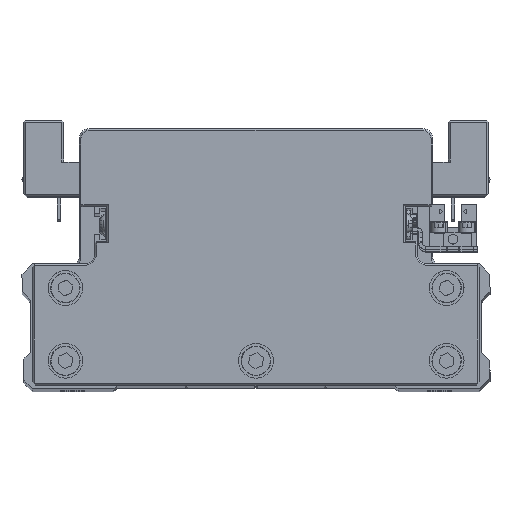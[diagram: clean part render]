
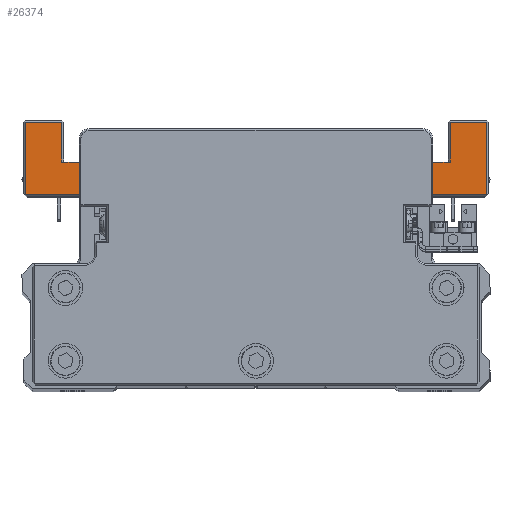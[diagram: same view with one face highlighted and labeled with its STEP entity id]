
A CAD part, top view. The second image highlights one B-rep face of the part: STEP entity #26374.
In plain terms, the highlighted planar face has unit normal (0, 0, 1) as drawn and (0, -1, 0) by its records, which use the part's own axes.
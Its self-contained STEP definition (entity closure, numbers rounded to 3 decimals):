
#70 = LINE ( 'NONE', #12231, #23984 ) ;
#129 = VERTEX_POINT ( 'NONE', #31996 ) ;
#529 = CARTESIAN_POINT ( 'NONE',  ( 55.5, -45., -52.5 ) ) ;
#1157 = LINE ( 'NONE', #13312, #19780 ) ;
#1316 = VECTOR ( 'NONE', #30622, 1000. ) ;
#1762 = DIRECTION ( 'NONE',  ( 1., 0., 0. ) ) ;
#1834 = CARTESIAN_POINT ( 'NONE',  ( -66.5, -45., -64. ) ) ;
#2331 = VERTEX_POINT ( 'NONE', #37126 ) ;
#2356 = EDGE_CURVE ( 'NONE', #2833, #21640, #3929, .T. ) ;
#2833 = VERTEX_POINT ( 'NONE', #34694 ) ;
#2849 = CARTESIAN_POINT ( 'NONE',  ( 46., -45., -54. ) ) ;
#3077 = LINE ( 'NONE', #15227, #35135 ) ;
#3285 = VECTOR ( 'NONE', #14996, 1000. ) ;
#3491 = EDGE_CURVE ( 'NONE', #6118, #30956, #27802, .T. ) ;
#3551 = DIRECTION ( 'NONE',  ( 0., 0., -1. ) ) ;
#3929 = LINE ( 'NONE', #16085, #12776 ) ;
#4612 = VECTOR ( 'NONE', #32501, 1000. ) ;
#4665 = EDGE_CURVE ( 'NONE', #21640, #18461, #35437, .T. ) ;
#4912 = CARTESIAN_POINT ( 'NONE',  ( -77.786, -45., -42.5 ) ) ;
#5703 = ORIENTED_EDGE ( 'NONE', *, *, #28196, .T. ) ;
#5808 = EDGE_CURVE ( 'NONE', #24412, #129, #16929, .T. ) ;
#6118 = VERTEX_POINT ( 'NONE', #6743 ) ;
#6204 = VECTOR ( 'NONE', #1762, 1000. ) ;
#6313 = VERTEX_POINT ( 'NONE', #7929 ) ;
#6350 = CARTESIAN_POINT ( 'NONE',  ( 56., -45., -64.5 ) ) ;
#6384 = LINE ( 'NONE', #18520, #1316 ) ;
#6743 = CARTESIAN_POINT ( 'NONE',  ( 56., -45., -52.5 ) ) ;
#6969 = CARTESIAN_POINT ( 'NONE',  ( 0., -45., 0. ) ) ;
#7430 = CARTESIAN_POINT ( 'NONE',  ( -39.868, -45., -42.987 ) ) ;
#7465 = ORIENTED_EDGE ( 'NONE', *, *, #37956, .T. ) ;
#7502 = CARTESIAN_POINT ( 'NONE',  ( -66., -45., -43. ) ) ;
#7709 = LINE ( 'NONE', #19839, #21720 ) ;
#7929 = CARTESIAN_POINT ( 'NONE',  ( -66.5, -45., -43. ) ) ;
#8248 = LINE ( 'NONE', #20389, #4612 ) ;
#8278 = VERTEX_POINT ( 'NONE', #36623 ) ;
#8331 = VERTEX_POINT ( 'NONE', #24911 ) ;
#8534 = CARTESIAN_POINT ( 'NONE',  ( 56., -45., -64. ) ) ;
#9551 = ORIENTED_EDGE ( 'NONE', *, *, #26429, .T. ) ;
#9657 = LINE ( 'NONE', #21800, #16109 ) ;
#10000 = EDGE_CURVE ( 'NONE', #29388, #30082, #8248, .T. ) ;
#10813 = ORIENTED_EDGE ( 'NONE', *, *, #14711, .T. ) ;
#11057 = ORIENTED_EDGE ( 'NONE', *, *, #15959, .F. ) ;
#11568 = CARTESIAN_POINT ( 'NONE',  ( 46., -45., -52.5 ) ) ;
#11875 = ORIENTED_EDGE ( 'NONE', *, *, #33559, .T. ) ;
#11881 = CARTESIAN_POINT ( 'NONE',  ( -66.5, -45., -64.5 ) ) ;
#11941 = ORIENTED_EDGE ( 'NONE', *, *, #19671, .T. ) ;
#12026 = LINE ( 'NONE', #24156, #37876 ) ;
#12231 = CARTESIAN_POINT ( 'NONE',  ( -55.5, -45., -52.5 ) ) ;
#12696 = DIRECTION ( 'NONE',  ( -1., 0., 0. ) ) ;
#12776 = VECTOR ( 'NONE', #28189, 1000. ) ;
#12970 = ORIENTED_EDGE ( 'NONE', *, *, #34426, .T. ) ;
#13312 = CARTESIAN_POINT ( 'NONE',  ( 67., -45., -64. ) ) ;
#14469 = CARTESIAN_POINT ( 'NONE',  ( -40.066, -45., -41.5 ) ) ;
#14711 = EDGE_CURVE ( 'NONE', #20472, #8331, #12026, .T. ) ;
#14996 = DIRECTION ( 'NONE',  ( 1., 0., 0. ) ) ;
#15227 = CARTESIAN_POINT ( 'NONE',  ( 66.5, -45., -43.5 ) ) ;
#15488 = EDGE_CURVE ( 'NONE', #6313, #24412, #39106, .T. ) ;
#15690 = VECTOR ( 'NONE', #12696, 1000. ) ;
#15959 = EDGE_CURVE ( 'NONE', #8278, #18265, #70, .T. ) ;
#16085 = CARTESIAN_POINT ( 'NONE',  ( -39.868, -45., -42.987 ) ) ;
#16109 = VECTOR ( 'NONE', #33897, 1000. ) ;
#16205 = ORIENTED_EDGE ( 'NONE', *, *, #4665, .T. ) ;
#16929 = LINE ( 'NONE', #29026, #6204 ) ;
#17066 = DIRECTION ( 'NONE',  ( -1., 0., 0. ) ) ;
#17119 = ORIENTED_EDGE ( 'NONE', *, *, #2356, .T. ) ;
#17124 = VECTOR ( 'NONE', #17066, 1000. ) ;
#17712 = ORIENTED_EDGE ( 'NONE', *, *, #33435, .T. ) ;
#18265 = VERTEX_POINT ( 'NONE', #32131 ) ;
#18318 = AXIS2_PLACEMENT_3D ( 'NONE', #14469, #26585, #38704 ) ;
#18461 = VERTEX_POINT ( 'NONE', #30714 ) ;
#18492 = DIRECTION ( 'NONE',  ( 0., 0., -1. ) ) ;
#18520 = CARTESIAN_POINT ( 'NONE',  ( -46., -45., -52.5 ) ) ;
#18611 = AXIS2_PLACEMENT_3D ( 'NONE', #18689, #30795, #3551 ) ;
#18689 = CARTESIAN_POINT ( 'NONE',  ( 40.066, -45., -41.5 ) ) ;
#18872 = VECTOR ( 'NONE', #24008, 1000. ) ;
#19107 = DIRECTION ( 'NONE',  ( 0., -1., 0. ) ) ;
#19638 = DIRECTION ( 'NONE',  ( -1., 0., 0. ) ) ;
#19671 = EDGE_CURVE ( 'NONE', #30082, #2833, #32153, .T. ) ;
#19780 = VECTOR ( 'NONE', #25449, 1000. ) ;
#19839 = CARTESIAN_POINT ( 'NONE',  ( 46., -45., -52.5 ) ) ;
#20389 = CARTESIAN_POINT ( 'NONE',  ( 25.802, -45., -41.111 ) ) ;
#20472 = VERTEX_POINT ( 'NONE', #37226 ) ;
#21640 = VERTEX_POINT ( 'NONE', #7430 ) ;
#21720 = VECTOR ( 'NONE', #31950, 1000. ) ;
#21800 = CARTESIAN_POINT ( 'NONE',  ( -56., -45., -52.5 ) ) ;
#22087 = FACE_OUTER_BOUND ( 'NONE', #29446, .T. ) ;
#22241 = VECTOR ( 'NONE', #18492, 1000. ) ;
#23643 = VERTEX_POINT ( 'NONE', #8534 ) ;
#23984 = VECTOR ( 'NONE', #24350, 1000. ) ;
#24008 = DIRECTION ( 'NONE',  ( 0., 0., -1. ) ) ;
#24156 = CARTESIAN_POINT ( 'NONE',  ( 40.066, -45., -43. ) ) ;
#24350 = DIRECTION ( 'NONE',  ( -1., 0., 0. ) ) ;
#24412 = VERTEX_POINT ( 'NONE', #1834 ) ;
#24552 = ORIENTED_EDGE ( 'NONE', *, *, #26305, .F. ) ;
#24664 = VECTOR ( 'NONE', #19638, 1000. ) ;
#24911 = CARTESIAN_POINT ( 'NONE',  ( 40.066, -45., -43. ) ) ;
#24994 = ORIENTED_EDGE ( 'NONE', *, *, #10000, .T. ) ;
#25174 = EDGE_CURVE ( 'NONE', #30956, #36133, #7709, .T. ) ;
#25449 = DIRECTION ( 'NONE',  ( 1., 0., 0. ) ) ;
#26051 = CARTESIAN_POINT ( 'NONE',  ( -46., -45., -54. ) ) ;
#26115 = CARTESIAN_POINT ( 'NONE',  ( 39.868, -45., -42.987 ) ) ;
#26151 = ORIENTED_EDGE ( 'NONE', *, *, #5808, .T. ) ;
#26305 = EDGE_CURVE ( 'NONE', #27975, #8278, #6384, .T. ) ;
#26374 = ADVANCED_FACE ( 'NONE', ( #22087 ), #34198, .T. ) ;
#26429 = EDGE_CURVE ( 'NONE', #23643, #2331, #1157, .T. ) ;
#26585 = DIRECTION ( 'NONE',  ( 0., 1., 0. ) ) ;
#26748 = AXIS2_PLACEMENT_3D ( 'NONE', #6969, #19107, #31222 ) ;
#27355 = DIRECTION ( 'NONE',  ( 0., 0., 1. ) ) ;
#27395 = ORIENTED_EDGE ( 'NONE', *, *, #15488, .T. ) ;
#27802 = LINE ( 'NONE', #529, #15690 ) ;
#27870 = ORIENTED_EDGE ( 'NONE', *, *, #3491, .F. ) ;
#27975 = VERTEX_POINT ( 'NONE', #26051 ) ;
#28189 = DIRECTION ( 'NONE',  ( -0.991, 0., -0.132 ) ) ;
#28196 = EDGE_CURVE ( 'NONE', #6118, #23643, #33574, .T. ) ;
#29026 = CARTESIAN_POINT ( 'NONE',  ( -55.5, -45., -64. ) ) ;
#29388 = VERTEX_POINT ( 'NONE', #26115 ) ;
#29446 = EDGE_LOOP ( 'NONE', ( #11941, #17119, #16205, #12970, #27395, #26151, #11875, #11057, #24552, #7465, #35220, #27870, #5703, #9551, #17712, #10813, #37779, #24994 ) ) ;
#30082 = VERTEX_POINT ( 'NONE', #32127 ) ;
#30099 = LINE ( 'NONE', #2849, #3285 ) ;
#30622 = DIRECTION ( 'NONE',  ( 0., 0., 1. ) ) ;
#30714 = CARTESIAN_POINT ( 'NONE',  ( -40.066, -45., -43. ) ) ;
#30795 = DIRECTION ( 'NONE',  ( 0., 1., 0. ) ) ;
#30956 = VERTEX_POINT ( 'NONE', #11568 ) ;
#31222 = DIRECTION ( 'NONE',  ( 0., 0., -1. ) ) ;
#31279 = EDGE_CURVE ( 'NONE', #8331, #29388, #35736, .T. ) ;
#31950 = DIRECTION ( 'NONE',  ( 0., 0., -1. ) ) ;
#31996 = CARTESIAN_POINT ( 'NONE',  ( -56., -45., -64. ) ) ;
#32127 = CARTESIAN_POINT ( 'NONE',  ( 36.217, -45., -42.5 ) ) ;
#32131 = CARTESIAN_POINT ( 'NONE',  ( -56., -45., -52.5 ) ) ;
#32153 = LINE ( 'NONE', #4912, #17124 ) ;
#32501 = DIRECTION ( 'NONE',  ( -0.991, 0., 0.132 ) ) ;
#32540 = CARTESIAN_POINT ( 'NONE',  ( 46., -45., -54. ) ) ;
#33435 = EDGE_CURVE ( 'NONE', #2331, #20472, #3077, .T. ) ;
#33559 = EDGE_CURVE ( 'NONE', #129, #18265, #9657, .T. ) ;
#33574 = LINE ( 'NONE', #6350, #22241 ) ;
#33897 = DIRECTION ( 'NONE',  ( 0., 0., 1. ) ) ;
#34198 = PLANE ( 'NONE',  #26748 ) ;
#34426 = EDGE_CURVE ( 'NONE', #18461, #6313, #34729, .T. ) ;
#34694 = CARTESIAN_POINT ( 'NONE',  ( -36.217, -45., -42.5 ) ) ;
#34729 = LINE ( 'NONE', #7502, #24664 ) ;
#35135 = VECTOR ( 'NONE', #27355, 1000. ) ;
#35220 = ORIENTED_EDGE ( 'NONE', *, *, #25174, .F. ) ;
#35437 = CIRCLE ( 'NONE', #18318, 1.5 ) ;
#35736 = CIRCLE ( 'NONE', #18611, 1.5 ) ;
#36133 = VERTEX_POINT ( 'NONE', #32540 ) ;
#36272 = DIRECTION ( 'NONE',  ( -1., 0., 0. ) ) ;
#36623 = CARTESIAN_POINT ( 'NONE',  ( -46., -45., -52.5 ) ) ;
#37126 = CARTESIAN_POINT ( 'NONE',  ( 66.5, -45., -64. ) ) ;
#37226 = CARTESIAN_POINT ( 'NONE',  ( 66.5, -45., -43. ) ) ;
#37779 = ORIENTED_EDGE ( 'NONE', *, *, #31279, .T. ) ;
#37876 = VECTOR ( 'NONE', #36272, 1000. ) ;
#37956 = EDGE_CURVE ( 'NONE', #27975, #36133, #30099, .T. ) ;
#38704 = DIRECTION ( 'NONE',  ( 0., 0., -1. ) ) ;
#39106 = LINE ( 'NONE', #11881, #18872 ) ;
